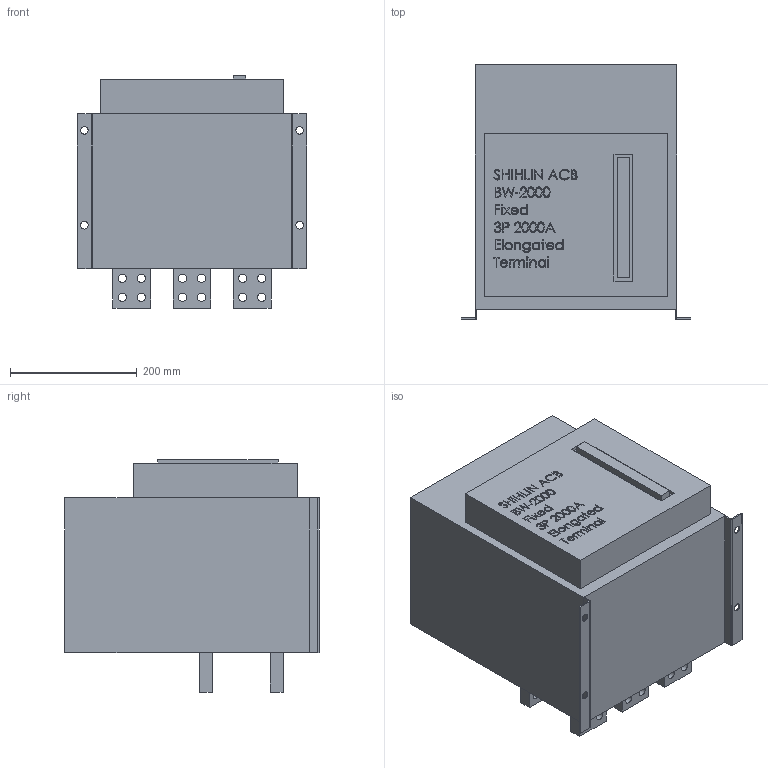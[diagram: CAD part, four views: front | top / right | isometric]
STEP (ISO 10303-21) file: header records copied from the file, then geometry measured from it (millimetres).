
FILE_DESCRIPTION (( 'STEP AP203' ), '1' );
FILE_NAME ('BW-2000-Fixed-3P-2000A-Elongated Terminal.STEP', '2020-04-09T10:57:48', ( '' ), ( '' ), 'SwSTEP 2.0', 'SolidWorks 2017', '' );
FILE_SCHEMA (( 'CONFIG_CONTROL_DESIGN' ));
Length unit declared in the file: millimetre
Products named in the file (1): BW-2000-Fixed-3P-2000A-Elongated Terminal
Bounding box: 362 x 402 x 367 mm (x, y, z)
Volume: 34610734.3 mm3; surface area: 800283.4 mm2
Topology: 3 solids, 3 shells, 714 faces, 1887 edges, 1258 vertices
Faces by surface type: plane 406, bspline 250, cylinder 58
Entity records: 35964 total; most frequent: CARTESIAN_POINT 19662, ORIENTED_EDGE 3774, DIRECTION 2433, EDGE_CURVE 1887, VECTOR 1271, LINE 1271, VERTEX_POINT 1258, EDGE_LOOP 849
